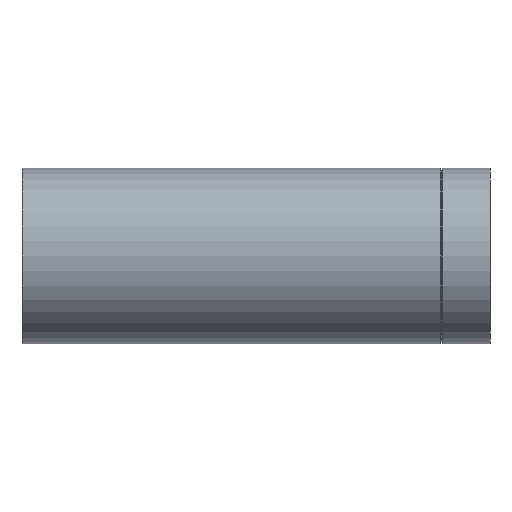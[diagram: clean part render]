
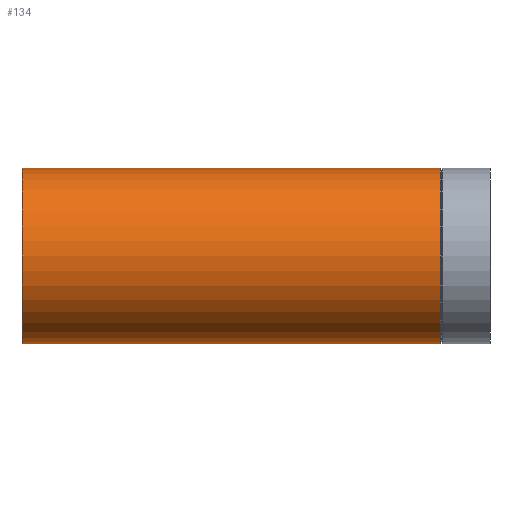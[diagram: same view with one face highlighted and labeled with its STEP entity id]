
A CAD part, left-side view. The second image highlights one B-rep face of the part: STEP entity #134.
In plain terms, the highlighted cylindrical face has radius 45 mm (diameter 90 mm), a full revolution.
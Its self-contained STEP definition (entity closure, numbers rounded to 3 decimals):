
#16=ELLIPSE($,#151,48.708,45.);
#17=ELLIPSE($,#152,117.591,45.);
#20=CYLINDRICAL_SURFACE($,#150,45.);
#27=FACE_BOUND($,#51,.T.);
#28=FACE_BOUND($,#52,.T.);
#29=FACE_BOUND($,#53,.T.);
#51=EDGE_LOOP($,(#108,#109));
#52=EDGE_LOOP($,(#110));
#53=EDGE_LOOP($,(#111));
#71=CIRCLE($,#149,45.);
#72=CIRCLE($,#153,45.);
#80=VERTEX_POINT($,#223);
#81=VERTEX_POINT($,#226);
#82=VERTEX_POINT($,#227);
#83=VERTEX_POINT($,#230);
#93=EDGE_CURVE($,#80,#80,#71,.T.);
#94=EDGE_CURVE($,#81,#82,#16,.T.);
#95=EDGE_CURVE($,#82,#81,#17,.T.);
#96=EDGE_CURVE($,#83,#83,#72,.T.);
#108=ORIENTED_EDGE($,*,*,#94,.T.);
#109=ORIENTED_EDGE($,*,*,#95,.T.);
#110=ORIENTED_EDGE($,*,*,#96,.T.);
#111=ORIENTED_EDGE($,*,*,#93,.T.);
#134=ADVANCED_FACE($,(#27,#28,#29),#20,.T.);
#149=AXIS2_PLACEMENT_3D($,#224,#178,#179);
#150=AXIS2_PLACEMENT_3D($,#225,#180,#181);
#151=AXIS2_PLACEMENT_3D($,#228,#182,#183);
#152=AXIS2_PLACEMENT_3D($,#229,#184,#185);
#153=AXIS2_PLACEMENT_3D($,#231,#186,#187);
#178=DIRECTION('center_axis',(0.,1.,0.));
#179=DIRECTION('ref_axis',(1.,0.,0.));
#180=DIRECTION('center_axis',(0.,1.,0.));
#181=DIRECTION('ref_axis',(1.,0.,0.));
#182=DIRECTION('center_axis',(-0.383,-0.924,0.));
#183=DIRECTION('ref_axis',(0.924,-0.383,0.));
#184=DIRECTION('center_axis',(-0.924,0.383,0.));
#185=DIRECTION('ref_axis',(-0.383,-0.924,0.));
#186=DIRECTION('center_axis',(0.,-1.,0.));
#187=DIRECTION('ref_axis',(1.,0.,0.));
#223=CARTESIAN_POINT('',(45.,25.52,0.));
#224=CARTESIAN_POINT('Origin',(0.,25.52,0.));
#225=CARTESIAN_POINT('Origin',(0.,0.,0.));
#226=CARTESIAN_POINT('',(0.,80.,-45.));
#227=CARTESIAN_POINT('',(0.,80.,45.));
#228=CARTESIAN_POINT('Origin',(0.,80.,0.));
#229=CARTESIAN_POINT('Origin',(0.,80.,0.));
#230=CARTESIAN_POINT('',(-45.,240.,0.));
#231=CARTESIAN_POINT('Origin',(0.,240.,0.));
